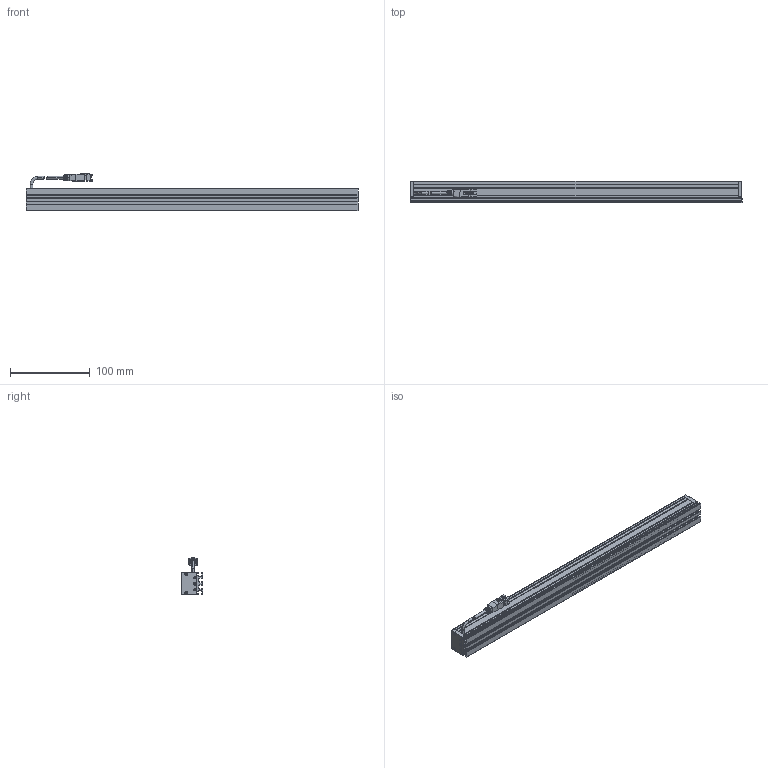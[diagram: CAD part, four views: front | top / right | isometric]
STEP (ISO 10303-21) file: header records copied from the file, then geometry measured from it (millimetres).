
FILE_DESCRIPTION (( 'STEP AP203' ), '1' );
FILE_NAME ('CK-BL41728.STEP', '2026-01-02T03:48:29', ( '' ), ( '' ), 'SwSTEP 2.0', 'SolidWorks 2022', '' );
FILE_SCHEMA (( 'CONFIG_CONTROL_DESIGN' ));
Length unit declared in the file: millimetre
Products named in the file (6): CK-BL41728; 光源线-01; CK-BL41728-002A; 十字沉头螺丝 M2x10; CK-BL41728-001A; CK-BL41728-003A
Assembly tree (11 placements, depth 2):
  CK-BL41728
    CK-BL41728-001A
    CK-BL41728-002A  x2
    CK-BL41728-003A
    光源线-01
    十字沉头螺丝 M2x10  x6
Bounding box: 417 x 27 x 47.34 mm (x, y, z)
Volume: 136807.2 mm3; surface area: 119907.9 mm2
Topology: 13 solids, 13 shells, 575 faces, 1494 edges, 950 vertices
Faces by surface type: plane 337, cylinder 172, cone 46, bspline 20
Entity records: 13997 total; most frequent: CARTESIAN_POINT 2782, ORIENTED_EDGE 2202, DIRECTION 2163, EDGE_CURVE 1101, LINE 781, VECTOR 781, VERTEX_POINT 714, AXIS2_PLACEMENT_3D 691
